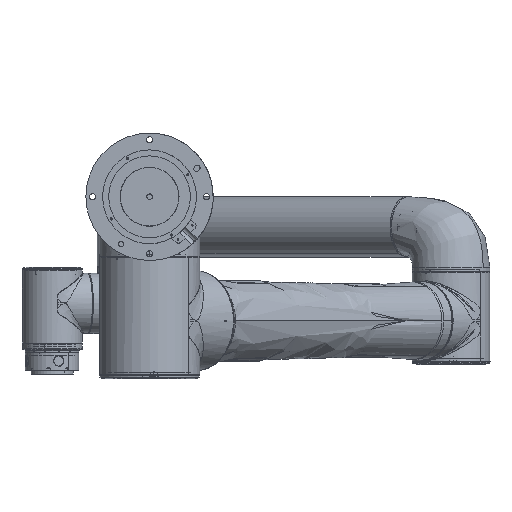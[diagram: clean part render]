
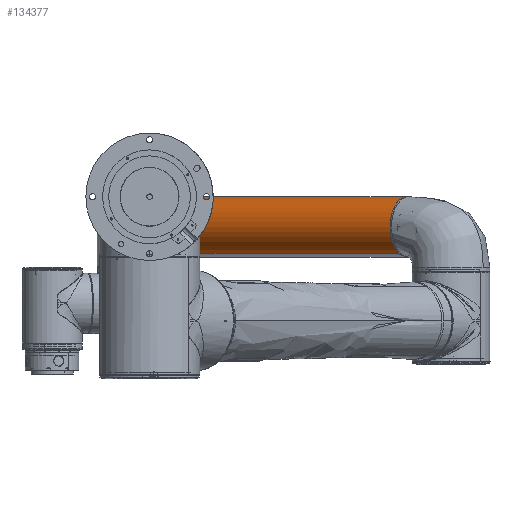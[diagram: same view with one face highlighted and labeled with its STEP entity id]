
A CAD part, front view. The second image highlights one B-rep face of the part: STEP entity #134377.
In plain terms, the highlighted cylindrical face has radius 45 mm (diameter 90 mm), a partial arc.
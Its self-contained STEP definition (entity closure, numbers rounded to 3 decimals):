
#2371 = CARTESIAN_POINT ( 'NONE',  ( 0., 1412., -45.3 ) ) ;
#5987 = AXIS2_PLACEMENT_3D ( 'NONE', #180385, #192692, #69912 ) ;
#8460 = ORIENTED_EDGE ( 'NONE', *, *, #34157, .F. ) ;
#11787 = DIRECTION ( 'NONE',  ( 0., -1., 0. ) ) ;
#29223 = ORIENTED_EDGE ( 'NONE', *, *, #67524, .F. ) ;
#30122 = DIRECTION ( 'NONE',  ( 0., 1., 0. ) ) ;
#34157 = EDGE_CURVE ( 'NONE', #106516, #94082, #178521, .T. ) ;
#34376 = AXIS2_PLACEMENT_3D ( 'NONE', #140490, #30122, #46744 ) ;
#41595 = EDGE_LOOP ( 'NONE', ( #29223, #8460, #54525, #161482 ) ) ;
#42808 = VERTEX_POINT ( 'NONE', #60803 ) ;
#46586 = EDGE_CURVE ( 'NONE', #106516, #42808, #229084, .T. ) ;
#46744 = DIRECTION ( 'NONE',  ( 0.5, 0., 0.866 ) ) ;
#53807 = AXIS2_PLACEMENT_3D ( 'NONE', #2371, #179333, #199537 ) ;
#54525 = ORIENTED_EDGE ( 'NONE', *, *, #46586, .T. ) ;
#60803 = CARTESIAN_POINT ( 'NONE',  ( -22.5, 959.7, -84.271 ) ) ;
#67524 = EDGE_CURVE ( 'NONE', #94082, #170278, #89052, .T. ) ;
#67988 = CARTESIAN_POINT ( 'NONE',  ( 22.5, 959.7, -6.329 ) ) ;
#69912 = DIRECTION ( 'NONE',  ( -0.5, 0., -0.866 ) ) ;
#89052 = LINE ( 'NONE', #199661, #110628 ) ;
#94082 = VERTEX_POINT ( 'NONE', #227955 ) ;
#100161 = EDGE_CURVE ( 'NONE', #170278, #42808, #115923, .T. ) ;
#106516 = VERTEX_POINT ( 'NONE', #198561 ) ;
#110628 = VECTOR ( 'NONE', #232885, 1000. ) ;
#115923 = CIRCLE ( 'NONE', #5987, 45. ) ;
#119787 = CARTESIAN_POINT ( 'NONE',  ( -22.5, 1412., -84.271 ) ) ;
#128156 = FACE_OUTER_BOUND ( 'NONE', #41595, .T. ) ;
#134377 = ADVANCED_FACE ( 'NONE', ( #128156 ), #146021, .T. ) ;
#135728 = VECTOR ( 'NONE', #11787, 1000. ) ;
#140490 = CARTESIAN_POINT ( 'NONE',  ( 0., 1412., -45.3 ) ) ;
#146021 = CYLINDRICAL_SURFACE ( 'NONE', #53807, 45. ) ;
#161482 = ORIENTED_EDGE ( 'NONE', *, *, #100161, .F. ) ;
#170278 = VERTEX_POINT ( 'NONE', #67988 ) ;
#178521 = CIRCLE ( 'NONE', #34376, 45. ) ;
#179333 = DIRECTION ( 'NONE',  ( 0., -1., 0. ) ) ;
#180385 = CARTESIAN_POINT ( 'NONE',  ( 0., 959.7, -45.3 ) ) ;
#192692 = DIRECTION ( 'NONE',  ( 0., -1., 0. ) ) ;
#198561 = CARTESIAN_POINT ( 'NONE',  ( -22.5, 1412., -84.271 ) ) ;
#199537 = DIRECTION ( 'NONE',  ( -0.5, 0., -0.866 ) ) ;
#199661 = CARTESIAN_POINT ( 'NONE',  ( 22.5, 1412., -6.329 ) ) ;
#227955 = CARTESIAN_POINT ( 'NONE',  ( 22.5, 1412., -6.329 ) ) ;
#229084 = LINE ( 'NONE', #119787, #135728 ) ;
#232885 = DIRECTION ( 'NONE',  ( 0., -1., 0. ) ) ;
